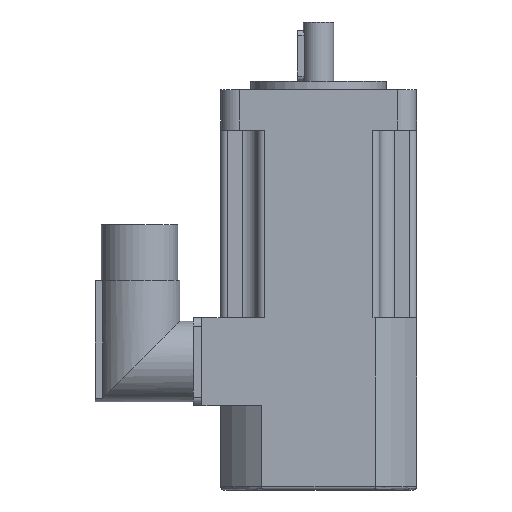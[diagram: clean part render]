
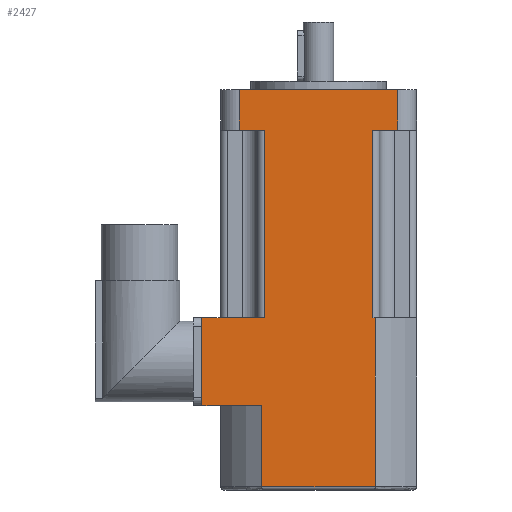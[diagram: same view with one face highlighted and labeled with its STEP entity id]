
A CAD part, left-side view. The second image highlights one B-rep face of the part: STEP entity #2427.
In plain terms, the highlighted planar face has unit normal (-1, 0, 0).
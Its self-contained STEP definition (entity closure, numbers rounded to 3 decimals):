
#324=FACE_OUTER_BOUND('',#470,.T.);
#470=EDGE_LOOP('',(#2034,#2035,#2036,#2037,#2038,#2039,#2040,#2041,#2042,
#2043,#2044,#2045,#2046,#2047));
#583=LINE('',#3735,#804);
#606=LINE('',#3803,#827);
#622=LINE('',#3852,#843);
#623=LINE('',#3855,#844);
#626=LINE('',#3861,#847);
#649=LINE('',#3921,#870);
#650=LINE('',#3926,#871);
#672=LINE('',#3975,#893);
#675=LINE('',#3984,#896);
#683=LINE('',#4120,#904);
#685=LINE('',#4142,#906);
#687=LINE('',#4147,#908);
#688=LINE('',#4149,#909);
#689=LINE('',#4150,#910);
#804=VECTOR('',#2959,7.425);
#827=VECTOR('',#3022,7.425);
#843=VECTOR('',#3078,12.);
#844=VECTOR('',#3081,12.);
#847=VECTOR('',#3088,47.);
#870=VECTOR('',#3153,55.5);
#871=VECTOR('',#3158,55.5);
#893=VECTOR('',#3202,18.425);
#896=VECTOR('',#3211,0.696);
#904=VECTOR('',#3247,33.541);
#906=VECTOR('',#3257,24.);
#908=VECTOR('',#3263,50.);
#909=VECTOR('',#3264,26.);
#910=VECTOR('',#3265,17.729);
#1045=VERTEX_POINT('',#3732);
#1046=VERTEX_POINT('',#3734);
#1070=VERTEX_POINT('',#3800);
#1071=VERTEX_POINT('',#3802);
#1084=VERTEX_POINT('',#3850);
#1085=VERTEX_POINT('',#3854);
#1102=VERTEX_POINT('',#3919);
#1103=VERTEX_POINT('',#3923);
#1120=VERTEX_POINT('',#3973);
#1123=VERTEX_POINT('',#3983);
#1137=VERTEX_POINT('',#4100);
#1139=VERTEX_POINT('',#4119);
#1141=VERTEX_POINT('',#4141);
#1143=VERTEX_POINT('',#4148);
#1309=EDGE_CURVE('',#1046,#1045,#583,.T.);
#1343=EDGE_CURVE('',#1071,#1070,#606,.T.);
#1368=EDGE_CURVE('',#1045,#1084,#622,.T.);
#1369=EDGE_CURVE('',#1071,#1085,#623,.T.);
#1373=EDGE_CURVE('',#1085,#1084,#626,.T.);
#1404=EDGE_CURVE('',#1102,#1046,#649,.T.);
#1406=EDGE_CURVE('',#1103,#1070,#650,.T.);
#1431=EDGE_CURVE('',#1120,#1103,#672,.T.);
#1435=EDGE_CURVE('',#1102,#1123,#675,.T.);
#1457=EDGE_CURVE('',#1139,#1137,#683,.T.);
#1462=EDGE_CURVE('',#1141,#1137,#685,.T.);
#1465=EDGE_CURVE('',#1139,#1123,#687,.T.);
#1466=EDGE_CURVE('',#1120,#1143,#688,.T.);
#1467=EDGE_CURVE('',#1141,#1143,#689,.T.);
#2034=ORIENTED_EDGE('',*,*,#1457,.F.);
#2035=ORIENTED_EDGE('',*,*,#1465,.T.);
#2036=ORIENTED_EDGE('',*,*,#1435,.F.);
#2037=ORIENTED_EDGE('',*,*,#1404,.T.);
#2038=ORIENTED_EDGE('',*,*,#1309,.T.);
#2039=ORIENTED_EDGE('',*,*,#1368,.T.);
#2040=ORIENTED_EDGE('',*,*,#1373,.F.);
#2041=ORIENTED_EDGE('',*,*,#1369,.F.);
#2042=ORIENTED_EDGE('',*,*,#1343,.T.);
#2043=ORIENTED_EDGE('',*,*,#1406,.F.);
#2044=ORIENTED_EDGE('',*,*,#1431,.F.);
#2045=ORIENTED_EDGE('',*,*,#1466,.T.);
#2046=ORIENTED_EDGE('',*,*,#1467,.F.);
#2047=ORIENTED_EDGE('',*,*,#1462,.T.);
#2310=PLANE('',#2653);
#2427=ADVANCED_FACE('',(#324),#2310,.T.);
#2653=AXIS2_PLACEMENT_3D('',#4146,#3261,#3262);
#2959=DIRECTION('',(0.,-1.,0.));
#3022=DIRECTION('',(0.,-1.,0.));
#3078=DIRECTION('',(0.,0.,1.));
#3081=DIRECTION('',(0.,0.,1.));
#3088=DIRECTION('',(0.,-1.,0.));
#3153=DIRECTION('',(0.,0.,1.));
#3158=DIRECTION('',(0.,0.,1.));
#3202=DIRECTION('',(0.,-1.,0.));
#3211=DIRECTION('',(0.,-1.,0.));
#3247=DIRECTION('',(0.,1.,0.));
#3257=DIRECTION('',(0.,0.,-1.));
#3261=DIRECTION('center_axis',(-1.,0.,0.));
#3262=DIRECTION('ref_axis',(0.,-1.,0.));
#3263=DIRECTION('',(0.,0.,1.));
#3264=DIRECTION('',(0.,0.,-1.));
#3265=DIRECTION('',(0.,1.,0.));
#3732=CARTESIAN_POINT('',(-29.,-23.5,68.5));
#3734=CARTESIAN_POINT('',(-29.,-16.075,68.5));
#3735=CARTESIAN_POINT('',(-29.,23.5,68.5));
#3800=CARTESIAN_POINT('',(-29.,16.075,68.5));
#3802=CARTESIAN_POINT('',(-29.,23.5,68.5));
#3803=CARTESIAN_POINT('',(-29.,23.5,68.5));
#3850=CARTESIAN_POINT('',(-29.,-23.5,80.5));
#3852=CARTESIAN_POINT('',(-29.,-23.5,68.5));
#3854=CARTESIAN_POINT('',(-29.,23.5,80.5));
#3855=CARTESIAN_POINT('',(-29.,23.5,68.5));
#3861=CARTESIAN_POINT('',(-29.,23.5,80.5));
#3919=CARTESIAN_POINT('',(-29.,-16.075,13.));
#3921=CARTESIAN_POINT('',(-29.,-16.075,13.));
#3923=CARTESIAN_POINT('',(-29.,16.075,13.));
#3926=CARTESIAN_POINT('',(-29.,16.075,13.));
#3973=CARTESIAN_POINT('',(-29.,34.5,13.));
#3975=CARTESIAN_POINT('',(-29.,34.5,13.));
#3983=CARTESIAN_POINT('',(-29.,-16.771,13.));
#3984=CARTESIAN_POINT('',(-29.,34.5,13.));
#4100=CARTESIAN_POINT('',(-29.,16.771,-37.));
#4119=CARTESIAN_POINT('',(-29.,-16.771,-37.));
#4120=CARTESIAN_POINT('',(-29.,17.25,-37.));
#4141=CARTESIAN_POINT('',(-29.,16.771,-13.));
#4142=CARTESIAN_POINT('',(-29.,16.771,-13.));
#4146=CARTESIAN_POINT('Origin',(-29.,34.5,0.));
#4147=CARTESIAN_POINT('',(-29.,-16.771,0.));
#4148=CARTESIAN_POINT('',(-29.,34.5,-13.));
#4149=CARTESIAN_POINT('',(-29.,34.5,0.));
#4150=CARTESIAN_POINT('',(-29.,34.5,-13.));
